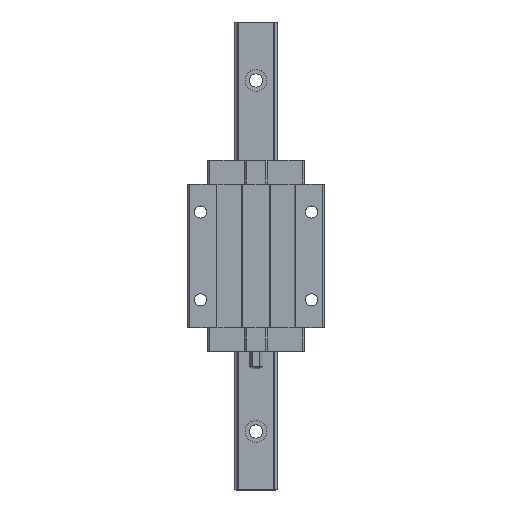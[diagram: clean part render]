
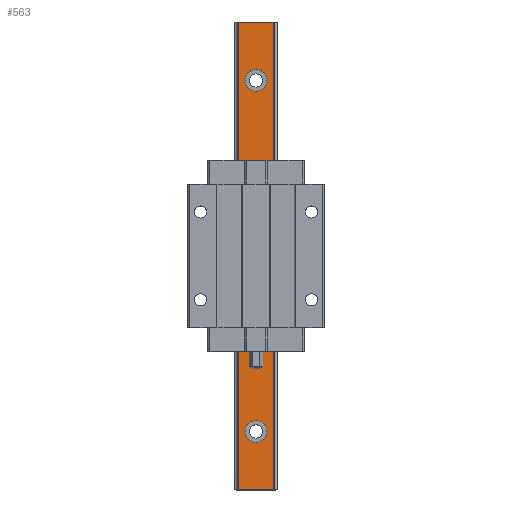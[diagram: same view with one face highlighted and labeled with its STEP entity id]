
A CAD part, top view. The second image highlights one B-rep face of the part: STEP entity #563.
In plain terms, the highlighted planar face has unit normal (0, 0, 1).
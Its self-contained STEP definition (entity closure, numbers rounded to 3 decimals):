
#563 = ADVANCED_FACE( '', ( #1126, #1127, #1128, #1129 ), #1130, .T. );
#1126 = FACE_BOUND( '', #1675, .T. );
#1127 = FACE_BOUND( '', #1676, .T. );
#1128 = FACE_BOUND( '', #1677, .T. );
#1129 = FACE_OUTER_BOUND( '', #1678, .T. );
#1130 = PLANE( '', #1679 );
#1675 = EDGE_LOOP( '', ( #3151 ) );
#1676 = EDGE_LOOP( '', ( #3152 ) );
#1677 = EDGE_LOOP( '', ( #3153 ) );
#1678 = EDGE_LOOP( '', ( #3154, #3155, #3156, #3157 ) );
#1679 = AXIS2_PLACEMENT_3D( '', #3158, #3159, #3160 );
#3151 = ORIENTED_EDGE( '', *, *, #3751, .T. );
#3152 = ORIENTED_EDGE( '', *, *, #3509, .T. );
#3153 = ORIENTED_EDGE( '', *, *, #3516, .T. );
#3154 = ORIENTED_EDGE( '', *, *, #3348, .F. );
#3155 = ORIENTED_EDGE( '', *, *, #3737, .F. );
#3156 = ORIENTED_EDGE( '', *, *, #3231, .T. );
#3157 = ORIENTED_EDGE( '', *, *, #3213, .T. );
#3158 = CARTESIAN_POINT( '', ( -6.004, -80., 13. ) );
#3159 = DIRECTION( '', ( 0., 0., 1. ) );
#3160 = DIRECTION( '', ( 1., 0., 0. ) );
#3213 = EDGE_CURVE( '', #3805, #3802, #3806, .T. );
#3231 = EDGE_CURVE( '', #3839, #3805, #3840, .T. );
#3348 = EDGE_CURVE( '', #4041, #3802, #4043, .T. );
#3509 = EDGE_CURVE( '', #4301, #4301, #4302, .T. );
#3516 = EDGE_CURVE( '', #4310, #4310, #4311, .T. );
#3737 = EDGE_CURVE( '', #3839, #4041, #4613, .T. );
#3751 = EDGE_CURVE( '', #4632, #4632, #4633, .T. );
#3802 = VERTEX_POINT( '', #4686 );
#3805 = VERTEX_POINT( '', #4689 );
#3806 = LINE( '', #4690, #4691 );
#3839 = VERTEX_POINT( '', #4731 );
#3840 = LINE( '', #4732, #4733 );
#4041 = VERTEX_POINT( '', #4987 );
#4043 = LINE( '', #4989, #4990 );
#4301 = VERTEX_POINT( '', #5364 );
#4302 = CIRCLE( '', #5365, 3.75 );
#4310 = VERTEX_POINT( '', #5375 );
#4311 = CIRCLE( '', #5376, 3.75 );
#4613 = LINE( '', #5839, #5840 );
#4632 = VERTEX_POINT( '', #5864 );
#4633 = CIRCLE( '', #5865, 3.75 );
#4686 = CARTESIAN_POINT( '', ( 6.004, 80., 13. ) );
#4689 = CARTESIAN_POINT( '', ( 6.004, -80., 13. ) );
#4690 = CARTESIAN_POINT( '', ( 6.004, -80., 13. ) );
#4691 = VECTOR( '', #5936, 1000. );
#4731 = CARTESIAN_POINT( '', ( -6.004, -80., 13. ) );
#4732 = CARTESIAN_POINT( '', ( -6.004, -80., 13. ) );
#4733 = VECTOR( '', #5971, 1000. );
#4987 = CARTESIAN_POINT( '', ( -6.004, 80., 13. ) );
#4989 = CARTESIAN_POINT( '', ( -6.004, 80., 13. ) );
#4990 = VECTOR( '', #6148, 1000. );
#5364 = CARTESIAN_POINT( '', ( 0., -3.75, 13. ) );
#5365 = AXIS2_PLACEMENT_3D( '', #6355, #6356, #6357 );
#5375 = CARTESIAN_POINT( '', ( 0., 56.25, 13. ) );
#5376 = AXIS2_PLACEMENT_3D( '', #6363, #6364, #6365 );
#5839 = CARTESIAN_POINT( '', ( -6.004, -80., 13. ) );
#5840 = VECTOR( '', #6595, 1000. );
#5864 = CARTESIAN_POINT( '', ( 0., -63.75, 13. ) );
#5865 = AXIS2_PLACEMENT_3D( '', #6604, #6605, #6606 );
#5936 = DIRECTION( '', ( 0., 1., 0. ) );
#5971 = DIRECTION( '', ( 1., 0., 0. ) );
#6148 = DIRECTION( '', ( 1., 0., 0. ) );
#6355 = CARTESIAN_POINT( '', ( 0., 0., 13. ) );
#6356 = DIRECTION( '', ( 0., 0., -1. ) );
#6357 = DIRECTION( '', ( 0., -1., 0. ) );
#6363 = CARTESIAN_POINT( '', ( 0., 60., 13. ) );
#6364 = DIRECTION( '', ( 0., 0., -1. ) );
#6365 = DIRECTION( '', ( 0., -1., 0. ) );
#6595 = DIRECTION( '', ( 0., 1., 0. ) );
#6604 = CARTESIAN_POINT( '', ( 0., -60., 13. ) );
#6605 = DIRECTION( '', ( 0., 0., -1. ) );
#6606 = DIRECTION( '', ( 0., -1., 0. ) );
